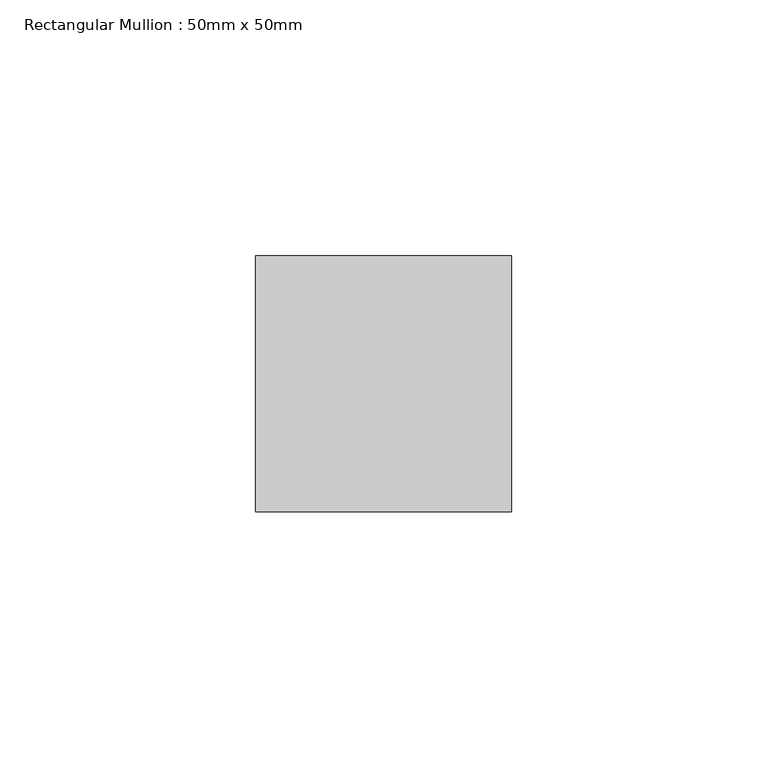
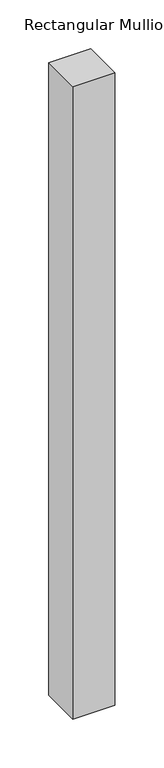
"""IFC4 building model written with IfcOpenShell, lengths in millimetres: member geometry, Rectangular Mullion : 50mm x 50mm."""

from ifc_helpers import new_model, si_unit, frame, origin, place, context, project, spatial, polyline, outline, extrude, source, transform, mapped, element, save


def rectangular_mullion_50mm_x_50mm_96ff6533(model_context):
    return source(origin(), model_context, "Body", "SweptSolid", [
        extrude(outline(polyline([(25.0, 25.0), (25.0, -25.0), (-25.0, -25.0), (-25.0, 25.0), (25.0, 25.0)])), frame((0.0, 0.0, -794.9020651), z_axis=(0.0, 0.0, 1.0), x_axis=(1.0, 0.0, 0.0)), (0.0, 0.0, 1.0), 794.9020651),
    ])


if __name__ == "__main__":
    model = new_model("IFC4")
    model_context = context("Model", 3, world=origin())
    ifc_project = project(units=[si_unit("LENGTHUNIT", "METRE", prefix="MILLI")], contexts=[model_context])
    site = spatial("IfcSite", under=ifc_project)
    building = spatial("IfcBuilding", under=site)
    placement = place(None, origin())
    rectangular_mullion_50mm_x_50mm_shape = rectangular_mullion_50mm_x_50mm_96ff6533(model_context)
    element("IfcMember", 1, ObjectType="Rectangular Mullion : 50mm x 50mm", at=placement, inside=building, context=model_context, shape_type="MappedRepresentation", body=[
        mapped(rectangular_mullion_50mm_x_50mm_shape, transform((0.0, 0.0, 0.0), x_axis=(1.0, 0.0, 0.0), y_axis=(0.0, 1.0, 0.0), z_axis=(0.0, 0.0, 1.0))),
    ])
    save(model, "model.ifc")
